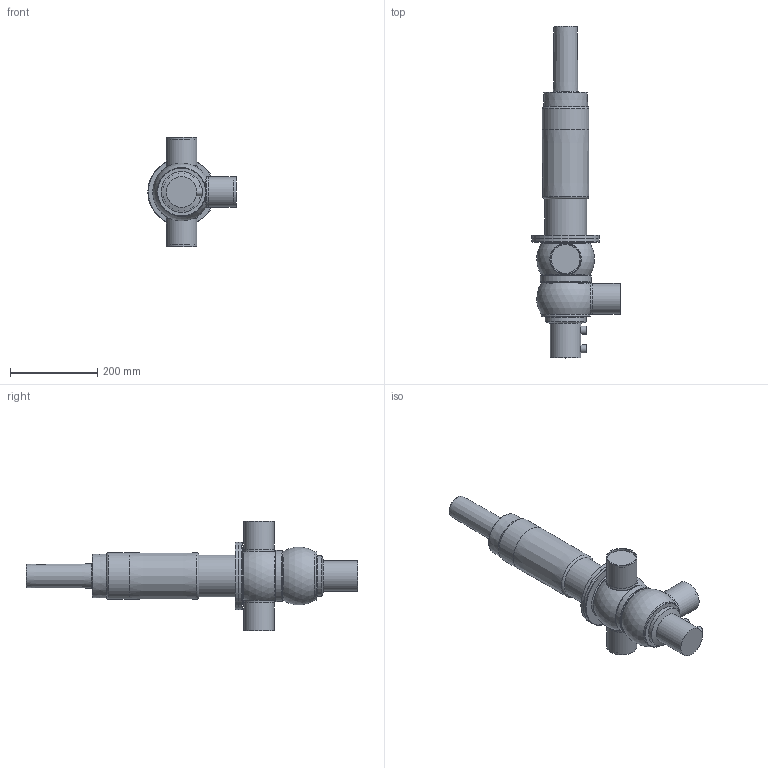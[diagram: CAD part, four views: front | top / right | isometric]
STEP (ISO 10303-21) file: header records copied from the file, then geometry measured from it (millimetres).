
FILE_DESCRIPTION(/* description */ ('Creo Elements/Direct Modeling STEP Export'),/* implementation_level */ '2;1');
FILE_NAME(/* name */ 'C:\Users\KN3PKE\Desktop\Makros Isabelle\D42SL-65_prox._TOP.stp',/* time_stamp */ '2020-08-20T11:20:59+02:00',/* author */ ('KN3PKE'),/* organization */ (''),/* preprocessor_version */ 'ST-DEVELOPER v17',/* originating_system */ 'Autodesk Inventor 2018',/* authorisation */ '');
FILE_SCHEMA (('AUTOMOTIVE_DESIGN { 1 0 10303 214 3 1 1 }','AUTOMOTIVE_DESIGN { 1 0 10303 214 1 1 1 1 }'));
Length unit declared in the file: millimetre
Products named in the file (5): D42SL-65_prox._TOP; housing_DA42-65; drain_pipe-62; actuator_D4SL-100_yoke; D4_Prox._holder.
Assembly tree (4 placements, depth 2):
  D42SL-65_prox._TOP
    housing_DA42-65
    drain_pipe-62
    actuator_D4SL-100_yoke
    D4_Prox._holder.
Bounding box: 202.5 x 761.35 x 250 mm (x, y, z)
Volume: 6653274.3 mm3; surface area: 394791.7 mm2
Topology: 4 solids, 4 shells, 77 faces, 183 edges, 127 vertices
Faces by surface type: plane 26, cylinder 23, torus 18, cone 7, sphere 3
Full cylindrical faces by diameter (mm): 18 x2, 60 x1, 66 x3, 68 x1, 70 x4, 85 x1, 85.1 x1, 94 x1, 96 x1, 107 x1, 111.8 x4, 117 x1, 155 x2
Entity records: 2833 total; most frequent: CARTESIAN_POINT 740, DIRECTION 478, ORIENTED_EDGE 366, AXIS2_PLACEMENT_3D 223, EDGE_CURVE 183, CIRCLE 137, VERTEX_POINT 127, EDGE_LOOP 90
